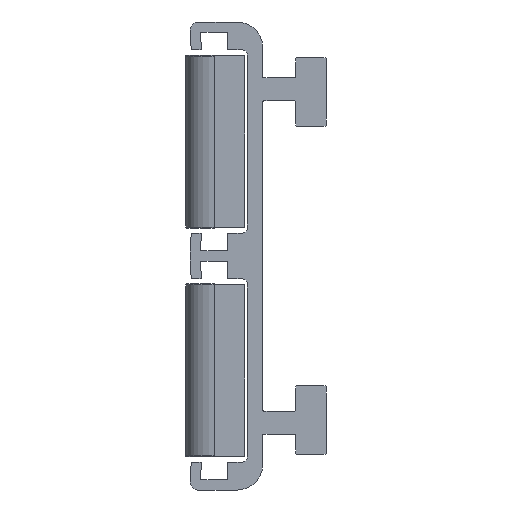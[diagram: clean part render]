
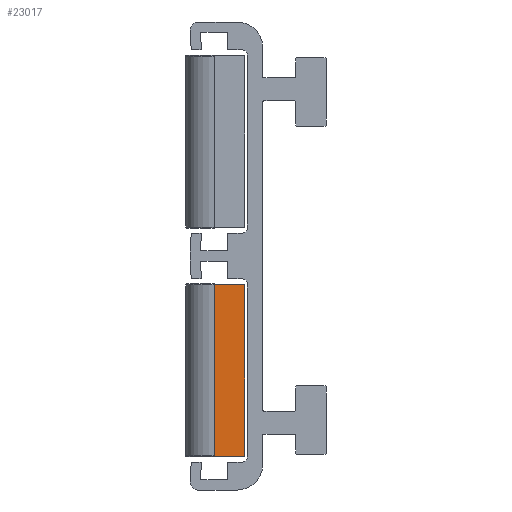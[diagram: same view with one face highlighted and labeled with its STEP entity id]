
A CAD part, left-side view. The second image highlights one B-rep face of the part: STEP entity #23017.
In plain terms, the highlighted planar face has unit normal (-1, 0, 0).
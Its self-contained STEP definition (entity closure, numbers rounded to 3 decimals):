
#20867=EDGE_CURVE('',#61434,#61435,#61436,.T.);
#23017=ADVANCED_FACE('',(#65256),#65257,.T.);
#33975=EDGE_CURVE('',#61435,#82288,#82289,.T.);
#41893=EDGE_CURVE('',#82288,#76841,#92795,.T.);
#55615=EDGE_CURVE('',#76841,#61434,#109163,.T.);
#61434=VERTEX_POINT('',#117095);
#61435=VERTEX_POINT('',#117096);
#61436=LINE('',#117097,#117098);
#65256=FACE_OUTER_BOUND('',#126797,.T.);
#65257=PLANE('',#126798);
#76841=VERTEX_POINT('',#156754);
#82288=VERTEX_POINT('',#172239);
#82289=LINE('',#172240,#172241);
#92795=LINE('',#204910,#204911);
#109163=LINE('',#257211,#257212);
#117095=CARTESIAN_POINT('',(-1500.0,8.652,-5.6));
#117096=CARTESIAN_POINT('',(-1500.0,2.652,-5.6));
#117097=CARTESIAN_POINT('',(-1500.0,4.887,-5.6));
#117098=VECTOR('',#276321,1.0);
#126797=EDGE_LOOP('',(#280239,#280240,#280241,#280242));
#126798=AXIS2_PLACEMENT_3D('',#280243,#280244,#280245);
#156754=CARTESIAN_POINT('',(-1500.0,8.652,-39.4));
#172239=CARTESIAN_POINT('',(-1500.0,2.652,-39.4));
#172240=CARTESIAN_POINT('',(-1500.0,2.652,-11.25));
#172241=VECTOR('',#300416,1.0);
#204910=CARTESIAN_POINT('',(-1500.0,4.887,-39.4));
#204911=VECTOR('',#313912,1.0);
#257211=CARTESIAN_POINT('',(-1500.0,8.652,-11.25));
#257212=VECTOR('',#338742,1.0);
#276321=DIRECTION('',(0.0,-1.0,0.0));
#280239=ORIENTED_EDGE('',*,*,#20867,.F.);
#280240=ORIENTED_EDGE('',*,*,#55615,.F.);
#280241=ORIENTED_EDGE('',*,*,#41893,.F.);
#280242=ORIENTED_EDGE('',*,*,#33975,.F.);
#280243=CARTESIAN_POINT('',(-1500.0,1.122,0.0));
#280244=DIRECTION('',(-1.0,0.0,0.0));
#280245=DIRECTION('',(0.0,0.0,1.0));
#300416=DIRECTION('',(0.0,0.0,-1.0));
#313912=DIRECTION('',(0.0,1.0,0.0));
#338742=DIRECTION('',(0.0,0.0,1.0));
